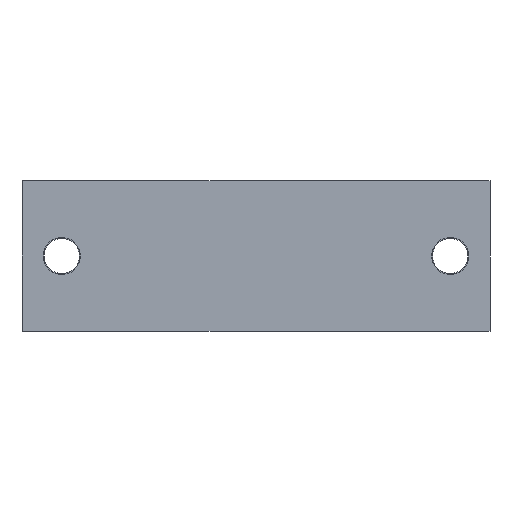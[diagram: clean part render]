
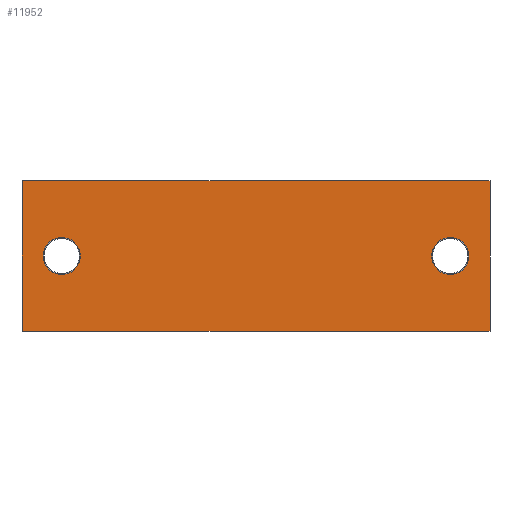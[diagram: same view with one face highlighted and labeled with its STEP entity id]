
A CAD part, front view. The second image highlights one B-rep face of the part: STEP entity #11952.
In plain terms, the highlighted planar face has unit normal (0, -1, 0).
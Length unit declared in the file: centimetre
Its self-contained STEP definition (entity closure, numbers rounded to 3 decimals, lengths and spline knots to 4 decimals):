
#908=VECTOR('',#13018,1.);
#1399=VECTOR('',#13817,1.);
#1767=VECTOR('',#14741,1.);
#1768=VECTOR('',#14742,1.);
#2220=LINE('',#16372,#908);
#2711=LINE('',#18211,#1399);
#3079=LINE('',#19375,#1767);
#3080=LINE('',#19376,#1768);
#3533=VERTEX_POINT('',#16373);
#3534=VERTEX_POINT('',#16374);
#3545=VERTEX_POINT('',#16398);
#3980=VERTEX_POINT('',#18212);
#3981=VERTEX_POINT('',#18213);
#3992=VERTEX_POINT('',#18237);
#4373=CIRCLE('',#19601,0.21);
#4416=CIRCLE('',#19838,0.21);
#5087=EDGE_CURVE('',#3533,#3534,#2220,.T.);
#5099=EDGE_CURVE('',#3545,#3545,#4373,.T.);
#5742=EDGE_CURVE('',#3980,#3981,#2711,.T.);
#5754=EDGE_CURVE('',#3992,#3992,#4416,.T.);
#6291=EDGE_CURVE('',#3981,#3533,#3079,.T.);
#6292=EDGE_CURVE('',#3534,#3980,#3080,.T.);
#9704=ORIENTED_EDGE('',*,*,#5099,.T.);
#9705=ORIENTED_EDGE('',*,*,#5754,.T.);
#9706=ORIENTED_EDGE('',*,*,#6291,.T.);
#9707=ORIENTED_EDGE('',*,*,#5087,.T.);
#9708=ORIENTED_EDGE('',*,*,#6292,.T.);
#9709=ORIENTED_EDGE('',*,*,#5742,.T.);
#10565=EDGE_LOOP('',(#9704));
#10566=EDGE_LOOP('',(#9705));
#10567=EDGE_LOOP('',(#9706,#9707,#9708,#9709));
#11295=FACE_BOUND('',#10565,.T.);
#11296=FACE_BOUND('',#10566,.T.);
#11297=FACE_BOUND('',#10567,.T.);
#11952=ADVANCED_FACE('',(#11295,#11296,#11297),#12405,.T.);
#12405=PLANE('',#20170);
#13018=DIRECTION('',(0.,0.,1.));
#13036=DIRECTION('',(0.,1.,0.));
#13037=DIRECTION('',(0.21,0.,0.));
#13817=DIRECTION('',(0.,0.,-1.));
#13835=DIRECTION('',(0.,1.,0.));
#13836=DIRECTION('',(-0.21,0.,0.));
#14740=DIRECTION('',(0.,-1.,0.));
#14741=DIRECTION('',(1.,0.,0.));
#14742=DIRECTION('',(-1.,0.,0.));
#16372=CARTESIAN_POINT('',(3.3,0.,0.85));
#16373=CARTESIAN_POINT('',(3.3,0.,-0.85));
#16374=CARTESIAN_POINT('',(3.3,0.,0.85));
#16397=CARTESIAN_POINT('',(2.85,0.,0.));
#16398=CARTESIAN_POINT('',(2.64,0.,0.));
#18211=CARTESIAN_POINT('',(-2.,0.,-0.85));
#18212=CARTESIAN_POINT('',(-2.,0.,0.85));
#18213=CARTESIAN_POINT('',(-2.,0.,-0.85));
#18236=CARTESIAN_POINT('',(-1.55,0.,0.));
#18237=CARTESIAN_POINT('',(-1.34,0.,0.));
#19374=CARTESIAN_POINT('',(0.,0.,0.));
#19375=CARTESIAN_POINT('',(0.,0.,-0.85));
#19376=CARTESIAN_POINT('',(-1.1,0.,0.85));
#19601=AXIS2_PLACEMENT_3D('',#16397,#13036,#13037);
#19838=AXIS2_PLACEMENT_3D('',#18236,#13835,#13836);
#20170=AXIS2_PLACEMENT_3D('',#19374,#14740,$);
